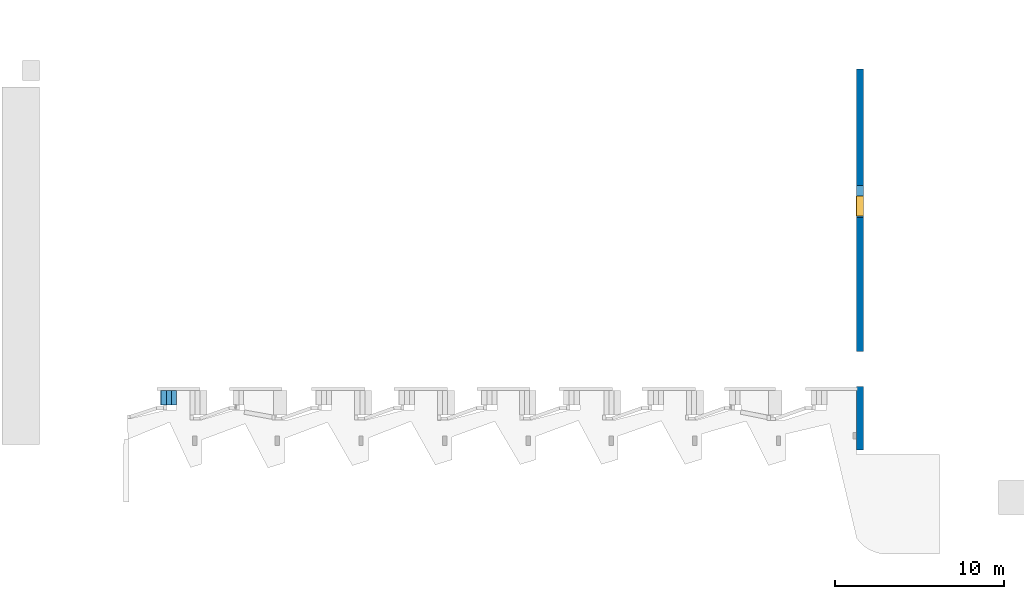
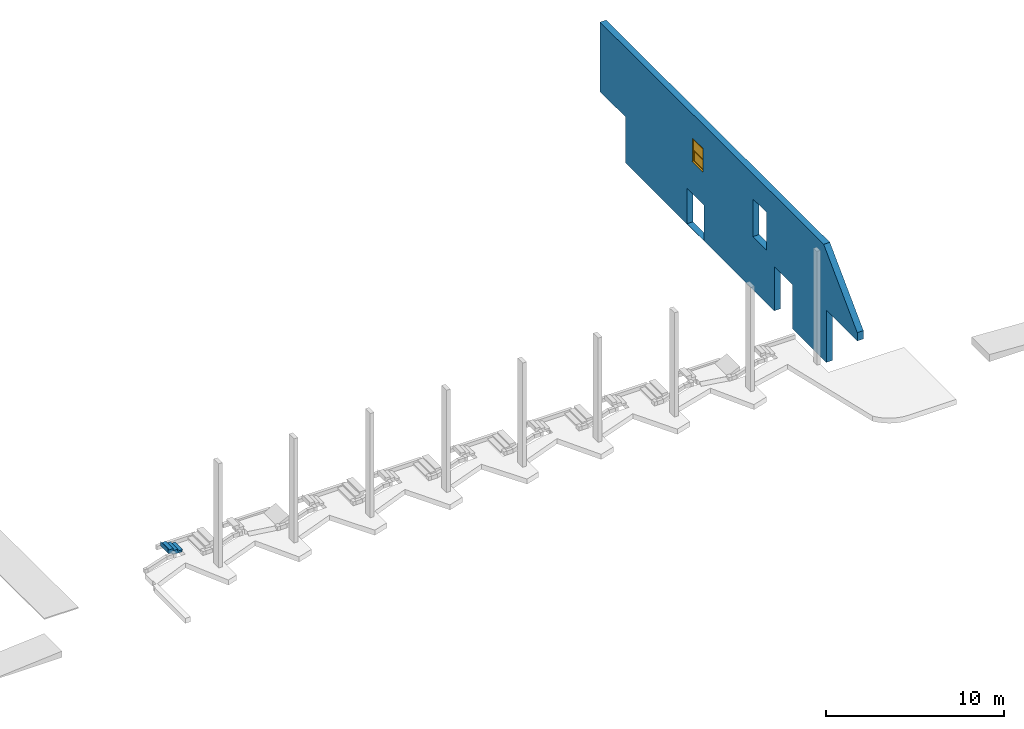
"""IFC4 building model written with IfcOpenShell, lengths in metres."""

from ifc_helpers import new_model, entity, si_unit, converted_unit, derived_unit, direction, frame, origin, place, context, subcontext, project, spatial, indexed_curve, outline, extrude, polygons, source, transform, mapped, material, constituent, constituent_set, type_object, type_shapes, element, fill, aggregate, save


model = new_model("IFC4")

# Units and contexts
model_context = context("Model", 3, precision=1e-05, world=origin(), true_north=direction((6.123031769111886e-17, 1.0)))
body_context = subcontext(model_context, "Body", "Model", "MODEL_VIEW")
ifc_project = project(units=[si_unit("LENGTHUNIT", "METRE"), si_unit("AREAUNIT", "SQUARE_METRE"), si_unit("VOLUMEUNIT", "CUBIC_METRE"), converted_unit("PLANEANGLEUNIT", "DEGREE", entity("IfcRatioMeasure", 0.017453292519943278), si_unit("PLANEANGLEUNIT", "RADIAN"), dimensions=[0, 0, 0, 0, 0, 0, 0]), si_unit("MASSUNIT", "GRAM", prefix="KILO"), derived_unit("MASSDENSITYUNIT", [(si_unit("MASSUNIT", "GRAM", prefix="KILO"), 1), (si_unit("LENGTHUNIT", "METRE"), -3)]), derived_unit("MOMENTOFINERTIAUNIT", [(si_unit("LENGTHUNIT", "METRE"), 4)]), si_unit("TIMEUNIT", "SECOND"), si_unit("FREQUENCYUNIT", "HERTZ"), si_unit("THERMODYNAMICTEMPERATUREUNIT", "DEGREE_CELSIUS"), derived_unit("THERMALTRANSMITTANCEUNIT", [(si_unit("MASSUNIT", "GRAM", prefix="KILO"), 1), (si_unit("THERMODYNAMICTEMPERATUREUNIT", "KELVIN"), -1), (si_unit("TIMEUNIT", "SECOND"), -3)]), derived_unit("VOLUMETRICFLOWRATEUNIT", [(si_unit("LENGTHUNIT", "METRE"), 3), (si_unit("TIMEUNIT", "SECOND"), -1)]), derived_unit("MASSFLOWRATEUNIT", [(si_unit("MASSUNIT", "GRAM", prefix="KILO"), 1), (si_unit("TIMEUNIT", "SECOND"), -1)]), derived_unit("ROTATIONALFREQUENCYUNIT", [(si_unit("TIMEUNIT", "SECOND"), -1)]), si_unit("ELECTRICCURRENTUNIT", "AMPERE"), si_unit("ELECTRICVOLTAGEUNIT", "VOLT"), si_unit("POWERUNIT", "WATT"), si_unit("FORCEUNIT", "NEWTON", prefix="KILO"), si_unit("ILLUMINANCEUNIT", "LUX"), si_unit("LUMINOUSFLUXUNIT", "LUMEN"), si_unit("LUMINOUSINTENSITYUNIT", "CANDELA"), derived_unit("USERDEFINED", [(si_unit("MASSUNIT", "GRAM", prefix="KILO"), -1), (si_unit("LENGTHUNIT", "METRE"), -2), (si_unit("TIMEUNIT", "SECOND"), 3), (si_unit("LUMINOUSFLUXUNIT", "LUMEN"), 1)]), derived_unit("SOUNDPOWERUNIT", [(si_unit("MASSUNIT", "GRAM", prefix="KILO"), 1), (si_unit("LENGTHUNIT", "METRE"), 2), (si_unit("TIMEUNIT", "SECOND"), -3)]), derived_unit("SOUNDPRESSUREUNIT", [(si_unit("MASSUNIT", "GRAM", prefix="KILO"), 1), (si_unit("LENGTHUNIT", "METRE"), -1), (si_unit("TIMEUNIT", "SECOND"), -2)]), derived_unit("LINEARVELOCITYUNIT", [(si_unit("LENGTHUNIT", "METRE"), 1), (si_unit("TIMEUNIT", "SECOND"), -1)]), si_unit("PRESSUREUNIT", "PASCAL"), derived_unit("USERDEFINED", [(si_unit("LENGTHUNIT", "METRE"), -2), (si_unit("MASSUNIT", "GRAM", prefix="KILO"), 1), (si_unit("TIMEUNIT", "SECOND"), -2)]), derived_unit("LINEARFORCEUNIT", [(si_unit("MASSUNIT", "GRAM", prefix="KILO"), 1), (si_unit("LENGTHUNIT", "METRE"), 1), (si_unit("TIMEUNIT", "SECOND"), -2), (si_unit("LENGTHUNIT", "METRE"), -1)]), derived_unit("PLANARFORCEUNIT", [(si_unit("MASSUNIT", "GRAM", prefix="KILO"), 1), (si_unit("LENGTHUNIT", "METRE"), 1), (si_unit("TIMEUNIT", "SECOND"), -2), (si_unit("LENGTHUNIT", "METRE"), -2)])], contexts=[model_context])

# Site, building, storey
site_placement = place(None, origin())
site = spatial("IfcSite", under=ifc_project, at=site_placement, Name="Superficie", CompositionType="ELEMENT")
building_placement = place(site_placement, origin())
building = spatial("IfcBuilding", under=site, at=building_placement, CompositionType="ELEMENT")
storey_1_placement = place(building_placement, frame((0.0, 0.0, -0.5599999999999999)))
storey_1 = spatial("IfcBuildingStorey", under=building, at=storey_1_placement, Name="Nivel -1", CompositionType="ELEMENT", Elevation=-0.5599999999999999)

# Wall, openings
ifc_material_1 = material(Name="Muro por defecto", Category="Varios")
wall_type = type_object("IfcWallType", Name="Muro básico:Por defecto - 40 cm 2", PredefinedType="STANDARD")
wall_placement = place(storey_1_placement, frame((20.786799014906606, -13.451870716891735, 0.5200000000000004), z_axis=(0.0, 0.0, 1.0), x_axis=(0.0, 1.0, 0.0)))
wall = element("IfcWall", 1, at=wall_placement, inside=storey_1, type_object=wall_type, material=ifc_material_1, Name="Muro básico:Por defecto - 40 cm 2", ObjectType="Muro básico:Por defecto - 40 cm 2", PredefinedType="NOTDEFINED", context=body_context, shape_type="Tessellation", body=[
    polygons([(28.937699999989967, -0.20000000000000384, 7.929819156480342), (3.775329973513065, -0.20000000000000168, 7.929819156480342), (2.1657342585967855e-15, -0.20000000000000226, 4.1544891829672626), (2.1657342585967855e-15, -0.20000000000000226, 3.5899999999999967), (3.2376999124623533, -0.2000000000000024, 3.589999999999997), (3.487699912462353, -0.20000000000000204, 3.5899999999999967), (3.487699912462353, -0.20000000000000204, -5.414335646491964e-16), (7.2676999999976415, -0.2000000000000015, -5.414335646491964e-16), (7.2676999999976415, -0.2000000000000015, 3.0399999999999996), (9.32769991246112, -0.20000000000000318, 3.0399999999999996), (9.32769991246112, -0.20000000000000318, -5.414335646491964e-16), (26.036419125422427, -0.20000000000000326, -5.414335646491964e-16), (26.036419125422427, -0.20000000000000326, 3.1599999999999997), (28.937699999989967, -0.20000000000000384, 3.1599999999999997), (10.178953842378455, -0.2000000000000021, 6.219999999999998), (11.727699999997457, -0.2000000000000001, 6.219999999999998), (11.727699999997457, -0.2000000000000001, 3.6399999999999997), (10.178953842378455, -0.2000000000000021, 3.6399999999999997), (17.252699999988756, -0.2000000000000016, 2.4591999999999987), (19.152699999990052, -0.20000000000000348, 2.4591999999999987), (19.152699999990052, -0.20000000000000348, 0.02079999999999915), (17.252699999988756, -0.2000000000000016, 0.02079999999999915), (18.52769999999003, -0.20000000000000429, 6.279999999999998), (18.52769999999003, -0.20000000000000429, 4.679999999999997), (17.32769999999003, -0.2000000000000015, 4.679999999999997), (17.32769999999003, -0.2000000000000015, 6.279999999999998), (3.7753299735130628, 0.19999999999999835, 7.929819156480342), (28.937699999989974, 0.19999999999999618, 7.929819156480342), (28.937699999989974, 0.19999999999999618, 7.809999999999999), (28.937699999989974, 0.19999999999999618, 3.959999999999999), (28.937699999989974, 0.19999999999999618, 3.1599999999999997), (26.036419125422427, 0.19999999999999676, 3.1599999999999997), (26.036419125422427, 0.19999999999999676, 2.3199999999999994), (26.036419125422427, 0.19999999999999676, 0.03999999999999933), (26.036419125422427, 0.19999999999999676, -5.414335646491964e-16), (9.327699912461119, 0.19999999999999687, -5.414335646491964e-16), (9.327699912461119, 0.19999999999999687, 3.0399999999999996), (7.26769999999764, 0.19999999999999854, 3.0399999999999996), (7.26769999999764, 0.19999999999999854, -5.414335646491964e-16), (3.4876999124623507, 0.19999999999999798, -5.414335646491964e-16), (3.4876999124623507, 0.19999999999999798, 0.03999999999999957), (3.4876999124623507, 0.19999999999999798, 3.5899999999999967), (3.2376999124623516, 0.19999999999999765, 3.5899999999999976), (0.0, 0.1999999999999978, 3.5899999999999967), (0.0, 0.1999999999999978, 4.1544891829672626), (11.727699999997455, 0.19999999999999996, 6.219999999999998), (10.178953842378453, 0.19999999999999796, 6.219999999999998), (10.178953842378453, 0.19999999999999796, 3.6399999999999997), (11.727699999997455, 0.19999999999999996, 3.6399999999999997), (19.15269999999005, 0.19999999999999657, 2.4591999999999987), (17.252699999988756, 0.19999999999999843, 2.4591999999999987), (17.252699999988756, 0.19999999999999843, 0.02079999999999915), (19.15269999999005, 0.19999999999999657, 0.02079999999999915), (18.52769999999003, 0.19999999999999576, 4.679999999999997), (18.52769999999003, 0.19999999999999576, 6.279999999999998), (17.32769999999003, 0.19999999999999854, 6.279999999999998), (17.32769999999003, 0.19999999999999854, 4.679999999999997)], [[[1, 2, 3, 4, 5, 6, 7, 8, 9, 10, 11, 12, 13, 14], [15, 16, 17, 18], [19, 20, 21, 22], [23, 24, 25, 26]], [[27, 28, 29, 30, 31, 32, 33, 34, 35, 36, 37, 38, 39, 40, 41, 42, 43, 44, 45], [46, 47, 48, 49], [50, 51, 52, 53], [54, 55, 56, 57]], [[9, 38, 37, 10]], [[38, 9, 8, 39]], [[10, 37, 36, 11]], [[15, 47, 46, 16]], [[17, 49, 48, 18]], [[47, 15, 18, 48]], [[16, 46, 49, 17]], [[19, 51, 50, 20]], [[21, 53, 52, 22]], [[51, 19, 22, 52]], [[20, 50, 53, 21]], [[14, 13, 32, 31]], [[24, 23, 55, 54]], [[25, 24, 54, 57]], [[26, 25, 57, 56]], [[23, 26, 56, 55]], [[8, 7, 40, 39]], [[2, 1, 28, 27]], [[1, 14, 31, 30, 29, 28]], [[6, 5, 4, 44, 43, 42]], [[7, 6, 42, 41, 40]], [[3, 2, 27, 45]], [[32, 13, 12, 35, 34, 33]], [[4, 3, 45, 44]], [[12, 11, 36, 35]]], closed=True),
])
opening_1_placement = place(wall_placement, origin())
element("IfcOpeningElement", 2, at=opening_1_placement, cuts=wall, Name="Muro básico:Por defecto - 40 cm 2", PredefinedType="OPENING", context=body_context, shape_type="SweptSolid", body=[
    extrude(outline(indexed_curve([(-0.004719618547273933, -0.022641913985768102), (0.004719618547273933, -0.022641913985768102), (0.004719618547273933, 0.022641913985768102), (-0.004719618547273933, 0.022641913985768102), (-0.004719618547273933, -0.022641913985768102)], self_intersect=False)), frame((10.203807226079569, -0.1999999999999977, -0.08059979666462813), z_axis=(0.0, 1.0, 0.0), x_axis=(0.0, 0.0, -1.0)), (0.0, 0.0, 1.0), 0.3999999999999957),
])
opening_2_placement = place(wall_placement, origin())
element("IfcOpeningElement", 3, at=opening_2_placement, cuts=wall, Name="Muro básico:Por defecto - 40 cm 2", PredefinedType="OPENING", context=body_context, shape_type="SweptSolid", body=[
    extrude(outline(indexed_curve([(-1.53, -1.0299999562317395), (1.53, -1.0299999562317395), (1.53, 1.0299999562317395), (-1.53, 1.0299999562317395), (-1.53, -1.0299999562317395)], self_intersect=False)), frame((8.297699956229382, -0.20000000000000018, 1.5099999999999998), z_axis=(0.0, 1.0, 0.0), x_axis=(0.0, 0.0, -1.0)), (0.0, 0.0, 1.0), 0.40000000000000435),
])
opening_3_placement = place(wall_placement, origin())
element("IfcOpeningElement", 4, at=opening_3_placement, cuts=wall, Name="Muro básico:Por defecto - 40 cm 2", PredefinedType="OPENING", context=body_context, shape_type="SweptSolid", body=[
    extrude(outline(indexed_curve([(-1.2899999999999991, -0.7743730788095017), (1.2899999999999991, -0.7743730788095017), (1.2899999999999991, 0.7743730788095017), (-1.2899999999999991, 0.7743730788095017), (-1.2899999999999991, -0.7743730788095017)], self_intersect=False)), frame((10.953326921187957, -0.19999999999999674, 4.929999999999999), z_axis=(0.0, 1.0, 0.0), x_axis=(0.0, 0.0, -1.0)), (0.0, 0.0, 1.0), 0.3999999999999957),
])
opening_4_placement = place(wall_placement, origin())
element("IfcOpeningElement", 5, at=opening_4_placement, cuts=wall, Name="Muro básico:Por defecto - 40 cm 2", PredefinedType="OPENING", context=body_context, shape_type="SweptSolid", body=[
    extrude(outline(indexed_curve([(-1.2192, -0.9500000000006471), (1.2191999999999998, -0.9500000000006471), (1.2192, 0.9500000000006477), (-1.2192, 0.9500000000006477), (-1.2192, -0.9500000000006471)], self_intersect=False)), frame((18.202699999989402, -0.19999999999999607, 1.239999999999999), z_axis=(0.0, 1.0, 0.0), x_axis=(0.0, 0.0, -1.0)), (0.0, 0.0, 1.0), 0.3999999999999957),
])
opening_5_placement = place(wall_placement, origin())
element("IfcOpeningElement", 6, at=opening_5_placement, cuts=wall, Name="Muro básico:Por defecto - 40 cm 2", PredefinedType="OPENING", context=body_context, shape_type="SweptSolid", body=[
    extrude(outline(indexed_curve([(-1.83, -1.2854552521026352), (1.8299999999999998, -1.2854552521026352), (1.83, 1.2854552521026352), (-1.83, 1.2854552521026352), (-1.83, -1.2854552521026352)], self_intersect=False)), frame((27.47187437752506, -0.2000000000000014, 1.3299999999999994), z_axis=(0.0, 1.0, 0.0), x_axis=(0.0, 0.0, -1.0)), (0.0, 0.0, 1.0), 0.40000000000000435),
])
opening_6_placement = place(wall_placement, origin())
element("IfcOpeningElement", 7, at=opening_6_placement, cuts=wall, Name="Muro básico:Por defecto - 40 cm 2", PredefinedType="OPENING", context=body_context, shape_type="SweptSolid", body=[
    extrude(outline(indexed_curve([(-0.07500000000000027, -1.0499999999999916), (0.07499999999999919, -1.0499999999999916), (0.07499999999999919, 1.0499999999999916), (-0.07500000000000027, 1.0499999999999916), (-0.07500000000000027, -1.0499999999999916)], self_intersect=False)), frame((19.593610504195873, -1.1000000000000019, 1.0899999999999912), z_axis=(0.0, 1.0, 0.0), x_axis=(-1.0, 0.0, 0.0)), (0.0, 0.0, 1.0), 0.899999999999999),
])
opening_7_placement = place(wall_placement, origin())
element("IfcOpeningElement", 8, at=opening_7_placement, cuts=wall, Name="Muro básico:Por defecto - 40 cm 2", PredefinedType="OPENING", context=body_context, shape_type="SweptSolid", body=[
    extrude(outline(indexed_curve([(-1.7949999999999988, -1.6813499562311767), (1.7949999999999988, -1.6813499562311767), (1.7949999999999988, 1.6813499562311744), (-1.7949999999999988, 1.6813499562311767), (-1.7949999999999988, -1.6813499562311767)], self_intersect=False)), frame((1.6813499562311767, 0.19999999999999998, 1.7949999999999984), z_axis=(0.0, -1.0, 0.0), x_axis=(0.0, 0.0, -1.0)), (0.0, 0.0, 1.0), 0.4),
])
opening_8_placement = place(wall_placement, frame((17.327699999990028, -0.20000000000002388, 4.679999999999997)))
opening_8 = element("IfcOpeningElement", 9, at=opening_8_placement, cuts=wall, Name="Ventana de guillotina de 2 hojas:1200x 1600mm 2:1", PredefinedType="OPENING", context=body_context, shape_type="SweptSolid", body=[
    extrude(outline(indexed_curve([(1.6000000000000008, 1.1999999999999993), (0.0, 1.1999999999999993), (5.414335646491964e-16, -4.371994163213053e-32), (1.6000000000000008, -4.371994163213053e-32), (1.6000000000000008, 1.1999999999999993)], self_intersect=False)), frame((0.0, 0.0, 0.0), z_axis=(0.0, 1.0, 0.0), x_axis=(0.0, 0.0, 1.0)), (0.0, 0.0, 1.0), 0.4),
])

# Storey
storey_2_placement = place(building_placement, frame((0.0, 0.0, 3.5999999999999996)))
storey_2 = spatial("IfcBuildingStorey", under=building, at=storey_2_placement, Name="Nivel 1", CompositionType="ELEMENT", Elevation=3.5999999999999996)

# Window
ifc_material_2 = material(Name="Vidrio", Category="Vidrio")
ifc_constituent_1 = constituent(ifc_material_2, Name="Vidrio", Category="Vidrio")
ifc_material_3 = material(Name="Hoja", Category="Madera")
ifc_constituent_2 = constituent(ifc_material_3, Name="Hoja", Category="Madera")
ifc_material_4 = material(Name="Madera - Castaño", Category="Madera")
ifc_constituent_3 = constituent(ifc_material_4, Name="Madera - Castaño", Category="Madera")
ifc_constituent_set_1 = constituent_set(constituents=[ifc_constituent_1, ifc_constituent_2, ifc_constituent_3], Name="MaterialConstituentSet")
ifc_constituent_4 = constituent(ifc_material_2, Name="Cristal", Category="Vidrio")
ifc_constituent_5 = constituent(ifc_material_3, Name="Marco/montante", Category="Madera")
ifc_constituent_6 = constituent(ifc_material_4, Name="Marco/montante", Category="Madera")
ifc_constituent_set_2 = constituent_set(constituents=[ifc_constituent_4, ifc_constituent_5, ifc_constituent_6], Name="MaterialConstituentSet")
window_type = type_object("IfcWindowType", Name="Ventana de guillotina de 2 hojas:1200x 1600mm 2", PartitioningType="NOTDEFINED", PredefinedType="WINDOW", material=ifc_constituent_set_2)
shared_shape = source(origin(), body_context, "Body", "SweptSolid", [
    extrude(outline(indexed_curve([(-0.006350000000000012, -0.5365000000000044), (0.0063499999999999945, -0.5365000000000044), (0.0063499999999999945, 0.5365000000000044), (-0.006350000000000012, 0.5365000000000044), (-0.006350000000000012, -0.5365000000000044)], self_intersect=False)), frame((0.5999999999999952, 0.314325, 0.06350000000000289), z_axis=(0.0, 0.0, 1.0), x_axis=(0.0, -1.0, 0.0)), (0.0, 0.0, 1.0), 0.7142749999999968),
    extrude(outline(indexed_curve([(-0.5809500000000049, -0.4015874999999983), (0.5809500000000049, -0.4015874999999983), (0.5809500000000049, 0.4015874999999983), (-0.5809500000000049, 0.4015874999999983), (-0.5809500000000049, -0.4015874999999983)], self_intersect=False), holes=[indexed_curve([(-0.5365, -0.35713749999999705), (-0.5365, 0.35713749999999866), (0.5365000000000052, 0.35713749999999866), (0.5365000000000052, -0.35713749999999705), (-0.5365, -0.35713749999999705)], self_intersect=False)]), frame((0.5999999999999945, 0.29209999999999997, 0.42063750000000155), z_axis=(0.0, 1.0, 0.0), x_axis=(1.0, 0.0, 0.0)), (0.0, 0.0, 1.0), 0.04445000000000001),
    extrude(outline(indexed_curve([(-0.012699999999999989, -0.5999999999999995), (0.012700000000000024, -0.5999999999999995), (0.012700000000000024, 0.5999999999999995), (-0.012699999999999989, 0.5999999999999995), (-0.012699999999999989, -0.5999999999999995)], self_intersect=False)), frame((0.5999999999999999, 0.41270000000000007, 0.0), z_axis=(0.0, 0.0, 1.0), x_axis=(0.0, -1.0, 0.0)), (0.0, 0.0, 1.0), 0.01905000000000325),
    extrude(outline(indexed_curve([(-0.006350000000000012, -0.5364999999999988), (0.006349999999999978, -0.5364999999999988), (0.006349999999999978, 0.5364999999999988), (-0.006350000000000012, 0.5364999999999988), (-0.006350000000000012, -0.5364999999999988)], self_intersect=False)), frame((0.6000000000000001, 0.35877500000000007, 0.8222249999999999), z_axis=(0.0, 0.0, 1.0), x_axis=(0.0, 1.0, 0.0)), (0.0, 0.0, 1.0), 0.7142749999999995),
    extrude(outline(indexed_curve([(-0.580949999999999, -0.40158749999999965), (0.580949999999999, -0.40158749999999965), (0.580949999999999, 0.40158749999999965), (-0.580949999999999, 0.40158749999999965), (-0.580949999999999, -0.40158749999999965)], self_intersect=False), holes=[indexed_curve([(-0.536499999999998, -0.35713750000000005), (-0.536499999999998, 0.3571374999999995), (0.5364999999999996, 0.3571374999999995), (0.5364999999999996, -0.35713750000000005), (-0.536499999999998, -0.35713750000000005)], self_intersect=False)]), frame((0.5999999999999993, 0.33655, 1.1793624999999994), z_axis=(0.0, 1.0, 0.0), x_axis=(1.0, 0.0, 0.0)), (0.0, 0.0, 1.0), 0.044449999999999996),
    extrude(outline(indexed_curve([(-0.5999999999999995, -0.7999999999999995), (0.5999999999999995, -0.7999999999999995), (0.5999999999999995, 0.7999999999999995), (-0.5999999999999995, 0.7999999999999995), (-0.5999999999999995, -0.7999999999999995)], self_intersect=False), holes=[indexed_curve([(-0.5682499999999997, -0.768249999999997), (-0.5682499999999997, 0.7682500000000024), (0.568249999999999, 0.7682500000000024), (0.5682499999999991, -0.768249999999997), (-0.5682499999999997, -0.768249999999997)], self_intersect=False)]), frame((0.5999999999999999, 0.0, 0.8000000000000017), z_axis=(0.0, 1.0, 0.0), x_axis=(1.0, 0.0, 0.0)), (0.0, 0.0, 1.0), 0.29209999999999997),
    extrude(outline(indexed_curve([(-0.8000000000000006, -0.5999999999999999), (0.8000000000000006, -0.5999999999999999), (0.8000000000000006, 0.5999999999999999), (-0.8000000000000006, 0.5999999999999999), (-0.8000000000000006, -0.5999999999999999)], self_intersect=False), holes=[indexed_curve([(-0.7809500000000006, -0.5809499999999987), (-0.7809500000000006, 0.5809500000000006), (0.7809499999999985, 0.5809500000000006), (0.7809499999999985, -0.5809499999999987), (-0.7809500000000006, -0.5809499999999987)], self_intersect=False)]), frame((0.6000000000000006, 0.29209999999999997, 0.8000000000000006), z_axis=(0.0, 1.0, 0.0), x_axis=(0.0, 0.0, -1.0)), (0.0, 0.0, 1.0), 0.10790000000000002),
])
type_shapes(window_type, [shared_shape])
window_placement = place(opening_8_placement, origin())
window = element("IfcWindow", 10, at=window_placement, inside=storey_2, type_object=window_type, material=ifc_constituent_set_1, Name="Ventana de guillotina de 2 hojas:1200x 1600mm 2", ObjectType="Ventana de guillotina de 2 hojas:1200x 1600mm 2", OverallHeight=1.6000000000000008, OverallWidth=1.199999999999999, PartitioningType="NOTDEFINED", PredefinedType="WINDOW", context=body_context, shape_type="MappedRepresentation", body=[
    mapped(shared_shape, transform((0.0, 0.0, 0.0), scale=1.0)),
])

fill(opening_8, window)

# Stair, stair flight
stair_type = type_object("IfcStairType", Name="Escalera prefabricada:Escalera prefabricada", PredefinedType="STRAIGHT_RUN_STAIR")
stair_placement = place(storey_1_placement, origin())
stair = element("IfcStair", 11, at=stair_placement, inside=storey_1, type_object=stair_type, Name="Escalera prefabricada:Escalera", ObjectType="Escalera prefabricada:Escalera prefabricada", PredefinedType="STRAIGHT_RUN_STAIR")
ifc_material_5 = material(Name="Cerámica blanca", Category="Cerámica")
ifc_constituent_7 = constituent(ifc_material_5, Name="Cerámica blanca", Category="Cerámica")
ifc_material_6 = material(Name="Hormigón", Category="Hormigón")
ifc_constituent_8 = constituent(ifc_material_6, Name="Hormigón", Category="Hormigón")
ifc_constituent_set_3 = constituent_set(constituents=[ifc_constituent_7, ifc_constituent_8], Name="MaterialConstituentSet")
stair_flight_type = type_object("IfcStairFlightType", Name="Tramo monolítico:Huella 40 mm Mamperlán 30 mm Contrahuella 15 mm", PredefinedType="STRAIGHT")
stair_flight_placement = place(stair_placement, frame((-20.598200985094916, -7.284170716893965, 0.0)))
stair_flight = element("IfcStairFlight", 12, at=stair_flight_placement, type_object=stair_flight_type, material=ifc_constituent_set_3, Name="Escalera prefabricada:Escalera:175361 Run 1", ObjectType="Tramo monolítico:Huella 40 mm Mamperlán 30 mm Contrahuella 15 mm", PredefinedType="STRAIGHT", context=body_context, shape_type="Tessellation", body=[
    polygons([(0.9450000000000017, 0.8399999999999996, 0.08999999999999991), (0.9450000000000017, 0.8399999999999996, 0.13999999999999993), (0.9450000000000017, -1.0828671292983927e-15, 0.13999999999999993), (0.9450000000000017, -1.0828671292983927e-15, 0.08999999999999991), (0.9219999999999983, 0.8399999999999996, 0.08999999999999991), (0.9219999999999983, -1.0828671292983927e-15, 0.08999999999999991), (0.9219999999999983, 0.8399999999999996, 0.1), (0.9219999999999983, -1.0828671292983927e-15, 0.1), (0.6000000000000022, 0.8400000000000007, 0.13999999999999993), (0.6000000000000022, 1.0828671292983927e-15, 0.13999999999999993), (0.6000000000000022, 1.0828671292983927e-15, 0.1), (0.6000000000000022, 0.8400000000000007, 0.1)], [[[1, 2, 3, 4]], [[5, 1, 4, 6]], [[7, 5, 6, 8]], [[3, 2, 9, 10]], [[11, 12, 7, 8]], [[3, 10, 11, 8, 6, 4]], [[9, 2, 1, 5, 7, 12]], [[10, 9, 12, 11]]], closed=True),
    polygons([(0.9149999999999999, 0.8399999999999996, 0.1), (0.9149999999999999, 0.8399999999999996, 0.0), (0.899999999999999, 0.8399999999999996, 0.0), (0.899999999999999, 0.8399999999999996, 0.1), (0.9149999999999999, -1.0828671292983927e-15, 0.1), (0.899999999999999, -1.0828671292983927e-15, 0.1), (0.899999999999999, -1.0828671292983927e-15, 0.0), (0.9149999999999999, -1.0828671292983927e-15, 0.0)], [[[1, 2, 3, 4]], [[5, 6, 7, 8]], [[2, 1, 5, 8]], [[3, 2, 8, 7]], [[4, 3, 7, 6]], [[1, 4, 6, 5]]], closed=True),
    polygons([(0.6149999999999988, 0.8400000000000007, 0.24), (0.6149999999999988, 0.8400000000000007, 0.13999999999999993), (0.5999999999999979, 0.8400000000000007, 0.13999999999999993), (0.5999999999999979, 0.8400000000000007, 0.24), (0.6149999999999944, 1.0828671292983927e-15, 0.24), (0.5999999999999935, 1.0828671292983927e-15, 0.24), (0.5999999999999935, 1.0828671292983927e-15, 0.13999999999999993), (0.6149999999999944, 1.0828671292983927e-15, 0.13999999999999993)], [[[1, 2, 3, 4]], [[5, 6, 7, 8]], [[2, 1, 5, 8]], [[3, 2, 8, 7]], [[4, 3, 7, 6]], [[1, 4, 6, 5]]], closed=True),
    polygons([(0.6449999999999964, 1.0828671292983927e-15, 0.27999999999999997), (0.6450000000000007, 0.8400000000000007, 0.27999999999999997), (0.30000000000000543, 0.8400000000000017, 0.28), (0.30000000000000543, 2.1657342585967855e-15, 0.28), (0.30000000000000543, 2.1657342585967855e-15, 0.24), (0.30000000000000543, 0.8400000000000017, 0.24), (0.6219999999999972, 0.8400000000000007, 0.24), (0.6219999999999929, 1.0828671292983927e-15, 0.24), (0.6219999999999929, 1.0828671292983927e-15, 0.22999999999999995), (0.6449999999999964, 1.0828671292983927e-15, 0.22999999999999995), (0.6450000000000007, 0.8400000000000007, 0.22999999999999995), (0.6219999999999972, 0.8400000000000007, 0.22999999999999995)], [[[1, 2, 3, 4]], [[5, 6, 7, 8]], [[1, 4, 5, 8, 9, 10]], [[3, 2, 11, 12, 7, 6]], [[4, 3, 6, 5]], [[11, 2, 1, 10]], [[12, 11, 10, 9]], [[7, 12, 9, 8]]], closed=True),
    polygons([(0.31499999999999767, 0.8400000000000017, 0.37999999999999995), (0.31499999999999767, 0.8400000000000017, 0.27999999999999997), (0.29999999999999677, 0.8400000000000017, 0.27999999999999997), (0.29999999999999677, 0.8400000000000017, 0.37999999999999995), (0.31499999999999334, 2.1657342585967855e-15, 0.37999999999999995), (0.29999999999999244, 2.1657342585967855e-15, 0.37999999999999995), (0.29999999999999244, 2.1657342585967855e-15, 0.27999999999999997), (0.31499999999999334, 2.1657342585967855e-15, 0.27999999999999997)], [[[1, 2, 3, 4]], [[5, 6, 7, 8]], [[2, 1, 5, 8]], [[3, 2, 8, 7]], [[4, 3, 7, 6]], [[1, 4, 6, 5]]], closed=True),
    polygons([(0.015000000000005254, 0.8400000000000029, 0.5199999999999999), (0.015000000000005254, 0.8400000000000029, 0.41999999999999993), (4.331468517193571e-15, 0.8400000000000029, 0.41999999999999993), (4.331468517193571e-15, 0.8400000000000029, 0.5199999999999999), (0.015000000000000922, 3.2486013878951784e-15, 0.5199999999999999), (0.0, 3.2486013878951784e-15, 0.5199999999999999), (0.0, 3.2486013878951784e-15, 0.41999999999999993), (0.015000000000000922, 3.2486013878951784e-15, 0.41999999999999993)], [[[1, 2, 3, 4]], [[5, 6, 7, 8]], [[2, 1, 5, 8]], [[3, 2, 8, 7]], [[4, 3, 7, 6]], [[1, 4, 6, 5]]], closed=True),
    polygons([(0.3449999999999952, 2.1657342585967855e-15, 0.41999999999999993), (0.34499999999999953, 0.8400000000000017, 0.41999999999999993), (4.331468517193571e-15, 0.8400000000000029, 0.42000000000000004), (4.331468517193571e-15, 3.2486013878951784e-15, 0.42000000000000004), (4.331468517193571e-15, 3.2486013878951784e-15, 0.37999999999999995), (4.331468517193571e-15, 0.8400000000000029, 0.37999999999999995), (0.3219999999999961, 0.8400000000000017, 0.37999999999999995), (0.3219999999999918, 2.1657342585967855e-15, 0.37999999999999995), (0.3219999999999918, 2.1657342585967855e-15, 0.36999999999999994), (0.3449999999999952, 2.1657342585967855e-15, 0.36999999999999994), (0.34499999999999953, 0.8400000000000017, 0.36999999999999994), (0.3219999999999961, 0.8400000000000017, 0.36999999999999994)], [[[1, 2, 3, 4]], [[5, 6, 7, 8]], [[1, 4, 5, 8, 9, 10]], [[3, 2, 11, 12, 7, 6]], [[4, 3, 6, 5]], [[11, 2, 1, 10]], [[12, 11, 10, 9]], [[7, 12, 9, 8]]], closed=True),
    polygons([(0.6000000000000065, 1.0828671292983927e-15, 0.1), (0.9000000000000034, -1.0828671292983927e-15, 0.1), (0.9000000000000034, 0.8399999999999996, 0.1), (0.6000000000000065, 0.8400000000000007, 0.1), (0.6000000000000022, 1.0828671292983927e-15, 0.0), (0.9000000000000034, -1.0828671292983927e-15, 0.0), (0.9000000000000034, 0.8399999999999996, 0.0), (0.6000000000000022, 0.8400000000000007, 0.0), (0.30000000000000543, 2.1657342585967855e-15, 0.24), (0.6000000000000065, 1.0828671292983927e-15, 0.24), (0.6000000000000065, 0.8400000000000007, 0.24), (0.30000000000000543, 0.8400000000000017, 0.24), (0.30000000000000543, 2.1657342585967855e-15, 0.06343524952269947), (0.4359326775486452, 2.1657342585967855e-15, 5.414335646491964e-16), (0.4359326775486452, 0.8400000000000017, 5.414335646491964e-16), (0.30000000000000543, 0.8400000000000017, 0.06343524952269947), (4.331468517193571e-15, 3.2486013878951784e-15, 0.2034352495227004), (4.331468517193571e-15, 0.8400000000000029, 0.20343524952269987), (4.331468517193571e-15, 3.2486013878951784e-15, 0.37999999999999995), (0.30000000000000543, 2.1657342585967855e-15, 0.37999999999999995), (0.30000000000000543, 0.8400000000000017, 0.37999999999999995), (4.331468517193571e-15, 0.8400000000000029, 0.37999999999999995)], [[[1, 2, 3, 4]], [[2, 1, 5, 6]], [[3, 2, 6, 7]], [[4, 3, 7, 8]], [[9, 10, 11, 12]], [[5, 1, 10, 9, 13, 14]], [[1, 4, 11, 10]], [[4, 8, 15, 16, 12, 11]], [[6, 5, 14, 15, 8, 7]], [[15, 14, 13, 17, 18, 16]], [[19, 20, 21, 22]], [[20, 19, 17, 13, 9]], [[9, 12, 21, 20]], [[22, 21, 12, 16, 18]], [[19, 22, 18, 17]]], closed=True),
])
aggregate(stair, [stair_flight])

save(model, "model.ifc")
